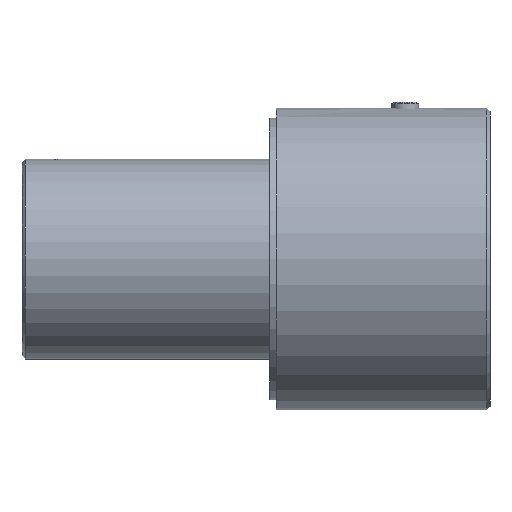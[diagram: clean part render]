
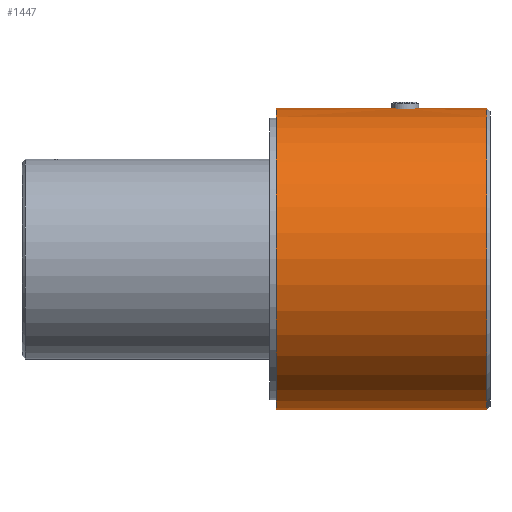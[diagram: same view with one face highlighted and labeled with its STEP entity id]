
A CAD part, left-side view. The second image highlights one B-rep face of the part: STEP entity #1447.
In plain terms, the highlighted cylindrical face has radius 44.5 mm (diameter 89 mm), a partial arc.
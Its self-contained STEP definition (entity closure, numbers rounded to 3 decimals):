
#3 = LINE ( 'NONE', #392, #338 ) ;
#27 = EDGE_CURVE ( 'NONE', #912, #1696, #3, .T. ) ;
#51 = ORIENTED_EDGE ( 'NONE', *, *, #529, .F. ) ;
#68 = EDGE_CURVE ( 'NONE', #876, #2145, #1508, .T. ) ;
#81 = CIRCLE ( 'NONE', #954, 44.5 ) ;
#141 = VERTEX_POINT ( 'NONE', #903 ) ;
#169 = CARTESIAN_POINT ( 'NONE',  ( -2.989, 23.985, 44.4 ) ) ;
#213 = CARTESIAN_POINT ( 'NONE',  ( 0., 28.15, 44.5 ) ) ;
#265 = CARTESIAN_POINT ( 'NONE',  ( -3.13, 25.413, 44.39 ) ) ;
#270 = ORIENTED_EDGE ( 'NONE', *, *, #1556, .F. ) ;
#280 = CARTESIAN_POINT ( 'NONE',  ( -1.016, 27.989, 44.489 ) ) ;
#319 = CARTESIAN_POINT ( 'NONE',  ( -3.05, 24.185, 44.395 ) ) ;
#338 = VECTOR ( 'NONE', #1156, 1000. ) ;
#343 = CARTESIAN_POINT ( 'NONE',  ( -1.925, 22.498, 44.459 ) ) ;
#365 = CARTESIAN_POINT ( 'NONE',  ( 0., 63., -44.5 ) ) ;
#384 = DIRECTION ( 'NONE',  ( 0., 1., 0. ) ) ;
#392 = CARTESIAN_POINT ( 'NONE',  ( 0., 63., 44.5 ) ) ;
#396 = AXIS2_PLACEMENT_3D ( 'NONE', #741, #2044, #1711 ) ;
#412 = LINE ( 'NONE', #766, #1545 ) ;
#426 = DIRECTION ( 'NONE',  ( 0., 0., 1. ) ) ;
#459 = CARTESIAN_POINT ( 'NONE',  ( -2.734, 26.578, 44.416 ) ) ;
#496 = CARTESIAN_POINT ( 'NONE',  ( -3.15, 25., 44.388 ) ) ;
#503 = CARTESIAN_POINT ( 'NONE',  ( -0.829, 21.934, 44.494 ) ) ;
#529 = EDGE_CURVE ( 'NONE', #1154, #829, #412, .T. ) ;
#541 = CARTESIAN_POINT ( 'NONE',  ( -3.15, 24.792, 44.388 ) ) ;
#589 = EDGE_CURVE ( 'NONE', #1696, #141, #2449, .T. ) ;
#663 = CARTESIAN_POINT ( 'NONE',  ( -1.923, 27.504, 44.459 ) ) ;
#737 = CARTESIAN_POINT ( 'NONE',  ( 0., 21.85, 44.5 ) ) ;
#741 = CARTESIAN_POINT ( 'NONE',  ( 0., 63., 0. ) ) ;
#766 = CARTESIAN_POINT ( 'NONE',  ( 0., 63., 44.5 ) ) ;
#829 = VERTEX_POINT ( 'NONE', #981 ) ;
#839 = CARTESIAN_POINT ( 'NONE',  ( -2.081, 27.373, 44.452 ) ) ;
#855 = ORIENTED_EDGE ( 'NONE', *, *, #68, .T. ) ;
#872 = CARTESIAN_POINT ( 'NONE',  ( -0.41, 28.13, 44.499 ) ) ;
#876 = VERTEX_POINT ( 'NONE', #1772 ) ;
#889 = CARTESIAN_POINT ( 'NONE',  ( -1.397, 22.17, 44.478 ) ) ;
#903 = CARTESIAN_POINT ( 'NONE',  ( -3.15, 25., 44.388 ) ) ;
#912 = VERTEX_POINT ( 'NONE', #1051 ) ;
#918 = CARTESIAN_POINT ( 'NONE',  ( -3.15, 25., 44.388 ) ) ;
#930 = CARTESIAN_POINT ( 'NONE',  ( -2.506, 23.081, 44.43 ) ) ;
#954 = AXIS2_PLACEMENT_3D ( 'NONE', #1272, #1674, #1502 ) ;
#981 = CARTESIAN_POINT ( 'NONE',  ( 0., 1., 44.5 ) ) ;
#986 = DIRECTION ( 'NONE',  ( 0., -1., 0. ) ) ;
#1024 = ORIENTED_EDGE ( 'NONE', *, *, #1075, .F. ) ;
#1051 = CARTESIAN_POINT ( 'NONE',  ( 0., 63., 44.5 ) ) ;
#1075 = EDGE_CURVE ( 'NONE', #141, #1154, #2217, .T. ) ;
#1082 = CARTESIAN_POINT ( 'NONE',  ( -2.083, 22.628, 44.451 ) ) ;
#1122 = CARTESIAN_POINT ( 'NONE',  ( -3.13, 24.587, 44.39 ) ) ;
#1125 = DIRECTION ( 'NONE',  ( 0., -1., 0. ) ) ;
#1128 = ORIENTED_EDGE ( 'NONE', *, *, #1151, .T. ) ;
#1151 = EDGE_CURVE ( 'NONE', #2145, #829, #81, .T. ) ;
#1154 = VERTEX_POINT ( 'NONE', #737 ) ;
#1156 = DIRECTION ( 'NONE',  ( 0., -1., 0. ) ) ;
#1187 = EDGE_LOOP ( 'NONE', ( #1227, #270, #855, #1128, #51, #1024, #2109 ) ) ;
#1213 = CARTESIAN_POINT ( 'NONE',  ( -3.05, 25.816, 44.395 ) ) ;
#1227 = ORIENTED_EDGE ( 'NONE', *, *, #27, .F. ) ;
#1261 = CARTESIAN_POINT ( 'NONE',  ( -2.734, 23.423, 44.416 ) ) ;
#1272 = CARTESIAN_POINT ( 'NONE',  ( 0., 1., 0. ) ) ;
#1295 = CARTESIAN_POINT ( 'NONE',  ( -2.373, 22.919, 44.437 ) ) ;
#1361 = CIRCLE ( 'NONE', #1402, 44.5 ) ;
#1402 = AXIS2_PLACEMENT_3D ( 'NONE', #2141, #384, #426 ) ;
#1407 = CARTESIAN_POINT ( 'NONE',  ( -1.578, 27.734, 44.472 ) ) ;
#1443 = CARTESIAN_POINT ( 'NONE',  ( -2.831, 26.397, 44.41 ) ) ;
#1447 = ADVANCED_FACE ( 'NONE', ( #2242 ), #2257, .T. ) ;
#1502 = DIRECTION ( 'NONE',  ( 0., 0., 1. ) ) ;
#1508 = LINE ( 'NONE', #365, #2140 ) ;
#1545 = VECTOR ( 'NONE', #986, 1000. ) ;
#1556 = EDGE_CURVE ( 'NONE', #876, #912, #1361, .T. ) ;
#1643 = CARTESIAN_POINT ( 'NONE',  ( -3.15, 25.208, 44.388 ) ) ;
#1674 = DIRECTION ( 'NONE',  ( 0., 1., 0. ) ) ;
#1685 = CARTESIAN_POINT ( 'NONE',  ( -2.831, 23.603, 44.41 ) ) ;
#1696 = VERTEX_POINT ( 'NONE', #213 ) ;
#1711 = DIRECTION ( 'NONE',  ( 0., 0., -1. ) ) ;
#1772 = CARTESIAN_POINT ( 'NONE',  ( 0., 63., -44.5 ) ) ;
#1786 = CARTESIAN_POINT ( 'NONE',  ( -0.817, 28.049, 44.493 ) ) ;
#1940 = CARTESIAN_POINT ( 'NONE',  ( 0., 1., -44.5 ) ) ;
#1984 = CARTESIAN_POINT ( 'NONE',  ( -2.372, 27.083, 44.437 ) ) ;
#2031 = CARTESIAN_POINT ( 'NONE',  ( -2.505, 26.921, 44.43 ) ) ;
#2044 = DIRECTION ( 'NONE',  ( 0., -1., 0. ) ) ;
#2109 = ORIENTED_EDGE ( 'NONE', *, *, #589, .F. ) ;
#2140 = VECTOR ( 'NONE', #1125, 1000. ) ;
#2141 = CARTESIAN_POINT ( 'NONE',  ( 0., 63., 0. ) ) ;
#2145 = VERTEX_POINT ( 'NONE', #1940 ) ;
#2188 = CARTESIAN_POINT ( 'NONE',  ( 0., 28.15, 44.5 ) ) ;
#2217 = B_SPLINE_CURVE_WITH_KNOTS ( 'NONE', 3,
 ( #918, #541, #1122, #319, #169, #1685, #1261, #930, #1295, #1082, #343, #2219, #889, #503, #2454, #2261 ),
 .UNSPECIFIED., .F., .F.,
 ( 4, 2, 2, 2, 2, 2, 2, 4 ),
 ( 0.015, 0.015, 0.016, 0.017, 0.017, 0.018, 0.018, 0.02 ),
 .UNSPECIFIED. ) ;
#2219 = CARTESIAN_POINT ( 'NONE',  ( -1.581, 22.268, 44.472 ) ) ;
#2242 = FACE_OUTER_BOUND ( 'NONE', #1187, .T. ) ;
#2257 = CYLINDRICAL_SURFACE ( 'NONE', #396, 44.5 ) ;
#2261 = CARTESIAN_POINT ( 'NONE',  ( 0., 21.85, 44.5 ) ) ;
#2376 = CARTESIAN_POINT ( 'NONE',  ( -0.206, 28.15, 44.5 ) ) ;
#2401 = CARTESIAN_POINT ( 'NONE',  ( -2.989, 26.016, 44.4 ) ) ;
#2411 = CARTESIAN_POINT ( 'NONE',  ( -1.395, 27.832, 44.479 ) ) ;
#2449 = B_SPLINE_CURVE_WITH_KNOTS ( 'NONE', 3,
 ( #2188, #2376, #872, #1786, #280, #2411, #1407, #663, #839, #1984, #2031, #459, #1443, #2401, #1213, #265, #1643, #496 ),
 .UNSPECIFIED., .F., .F.,
 ( 4, 2, 2, 2, 2, 2, 2, 2, 4 ),
 ( 0.01, 0.01, 0.011, 0.012, 0.012, 0.013, 0.014, 0.014, 0.015 ),
 .UNSPECIFIED. ) ;
#2454 = CARTESIAN_POINT ( 'NONE',  ( -0.416, 21.85, 44.5 ) ) ;
